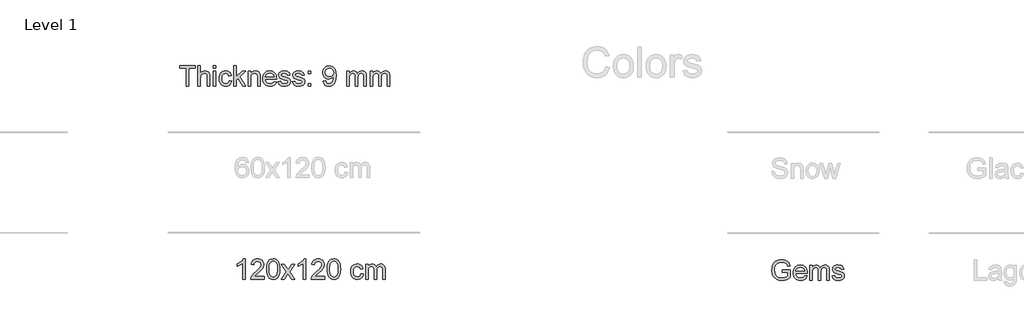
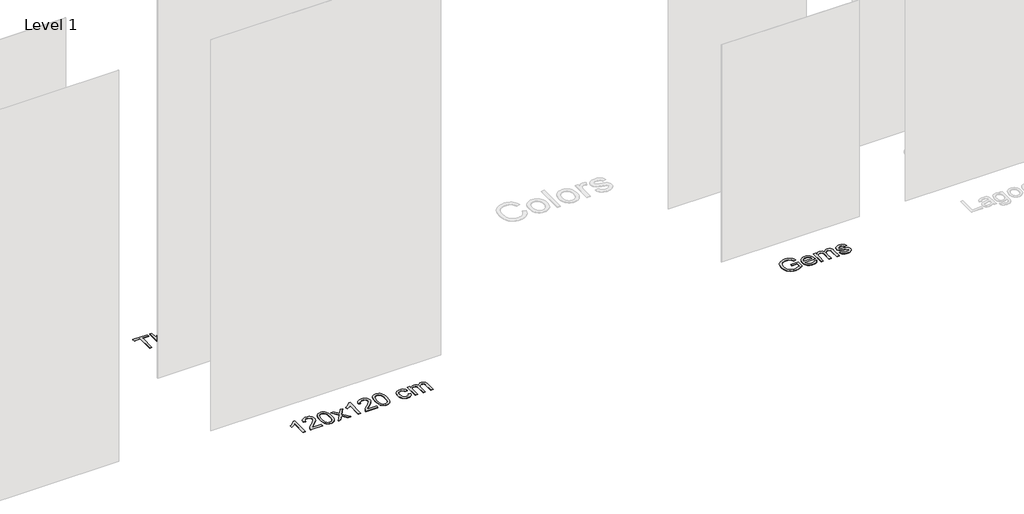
# One storey, part 3 of 7: 3 proxies.
"""IFC4 building model written with IfcOpenShell, lengths in millimetres."""

from ifc_helpers import new_model, si_unit, origin, origin_with_axes, place, context, project, spatial, polyline, outline, extrude, element, save

model = new_model("IFC4")

# Units and contexts
model_context = context("Model", 3, world=origin())
ifc_project = project(units=[si_unit("LENGTHUNIT", "METRE", prefix="MILLI")], contexts=[model_context])

# Site, building, storey
site = spatial("IfcSite", under=ifc_project)
building = spatial("IfcBuilding", under=site)
storey = spatial("IfcBuildingStorey", under=building, Name="Level 1", Elevation=0.0)

# Proxies
placement = place(None, origin())
element("IfcBuildingElementProxy", 1, Name="400mm Arial", ObjectType="400mm Arial", at=placement, inside=storey, context=model_context, shape_type="SweptSolid", body=[
    extrude(outline(polyline([(-4249.6073831, 7920.5888668), (-4249.6073831, 7970.8170219), (-4086.3658791, 7970.8170219), (-4086.3658791, 7820.623066), (-4126.0358209, 7793.0319164), (-4166.9565615, 7773.239865), (-4209.029999, 7761.3204884), (-4252.1580316, 7757.3473628), (-4281.009177, 7758.9261897), (-4308.5052905, 7763.6626704), (-4334.6463719, 7771.5568049), (-4359.4324214, 7782.6085932), (-4382.0632954, 7796.6524883), (-4401.7388508, 7813.5229435), (-4418.4590875, 7833.2199586), (-4432.2240055, 7855.7435338), (-4442.9753568, 7880.3732334), (-4450.6548934, 7906.3886218), (-4455.2626154, 7933.7896991), (-4456.7985228, 7962.5764652), (-4450.6794189, 8019.1689788), (-4443.0305391, 8045.9845106), (-4432.3221073, 8071.8128923), (-4418.744196, 8095.5198212), (-4402.4868775, 8115.9709945), (-4383.5501518, 8133.166412), (-4361.9340189, 8147.106074), (-4338.1075284, 8157.8788851), (-4312.5397297, 8165.5737501), (-4285.2306229, 8170.1906692), (-4256.1802081, 8171.7296422), (-4214.8057463, 8168.1611868), (-4177.6006139, 8157.4558208), (-4146.2693306, 8140.3860962), (-4122.5164165, 8117.7245653), (-4104.9439198, 8088.3798448), (-4092.1538891, 8051.2605515), (-4138.4579696, 8038.2130034), (-4148.7954537, 8064.6882443), (-4161.3647552, 8084.6642367), (-4177.9930213, 8099.722873), (-4200.5073995, 8111.4460459), (-4227.3505224, 8118.9876268), (-4256.965023, 8121.5014871), (-4291.6317697, 8118.7914231), (-4321.2707957, 8110.661231), (-4345.7717366, 8098.1287177), (-4365.0242277, 8082.21169), (-4379.8008212, 8063.7317511), (-4390.8740692, 8043.5105041), (-4402.6462931, 8005.5941332), (-4406.5703677, 7964.6366044), (-4401.8492154, 7916.6034785), (-4387.6857586, 7877.0806895), (-4364.5091929, 7846.3502802), (-4332.748714, 7824.6942934), (-4295.5803697, 7811.8552118), (-4256.1802081, 7807.5755179), (-4221.390834, 7810.8006167), (-4187.4598514, 7820.4759132), (-4157.9925035, 7833.8055042), (-4136.5940342, 7847.9934864), (-4136.5940342, 7920.5888668), (-4249.6073831, 7920.5888668)])), origin_with_axes(), (0.0, 0.0, 1.0), 5.0),
    extrude(outline(polyline([(-3804.421118, 7851.5251536), (-3755.1739816, 7845.2466342), (-3762.7247595, 7825.5220279), (-3772.9181565, 7808.1396036), (-3785.7541724, 7793.0993614), (-3801.2328074, 7780.4013012), (-3819.1946458, 7770.3152031), (-3839.4802721, 7763.1108474), (-3887.0228886, 7757.3473628), (-3918.188625, 7759.833632), (-3945.9575843, 7767.2924394), (-3970.3297664, 7779.7237852), (-3991.3051715, 7797.1276692), (-4008.172561, 7819.0197136), (-4020.2206964, 7844.9155404), (-4027.4495776, 7874.8151496), (-4029.8592046, 7908.7185411), (-4027.4250521, 7943.7715639), (-4020.1225945, 7974.6675201), (-4007.9518318, 8001.4064098), (-3990.9127641, 8023.9882329), (-3969.9925413, 8041.9286116), (-3946.1783135, 8054.7431677), (-3919.4700806, 8062.4319014), (-3889.8678427, 8064.9948127), (-3861.2190324, 8062.4380328), (-3835.3109428, 8054.7676932), (-3812.1435742, 8041.9837939), (-3791.7169264, 8024.0863348), (-3775.042675, 8001.5535626), (-3763.1324954, 7974.8637238), (-3755.9863876, 7944.0168185), (-3753.6043517, 7909.0128467), (-3753.8986573, 7895.4747893), (-3979.6310496, 7895.4747893), (-3976.7217161, 7875.4313519), (-3970.9367717, 7857.8772494), (-3962.2762164, 7842.8124817), (-3950.7400502, 7830.2370488), (-3936.9659352, 7820.322629), (-3921.5915334, 7813.2409006), (-3886.04187, 7807.5755179), (-3859.3091117, 7810.1997428), (-3836.7947336, 7818.0724175), (-3818.4987357, 7831.6840513), (-3804.421118, 7851.5251536)]), holes=[polyline([(-3979.6310496, 7945.7029443), (-3803.8325068, 7945.7029443), (-3810.626061, 7972.2394989), (-3823.9433892, 7991.2222099), (-3837.6408621, 8001.5229058), (-3853.226796, 8008.8805457), (-3870.7011908, 8013.2951296), (-3890.0640465, 8014.7666576), (-3923.9214527, 8010.0700308), (-3951.9172726, 7995.9801504), (-3971.3782301, 7974.0175952), (-3979.6310496, 7945.7029443)])]), origin_with_axes(), (0.0, 0.0, 1.0), 5.0),
    extrude(outline(polyline([(-3703.3761966, 7763.6258822), (-3703.3761966, 8058.7162933), (-3653.1480416, 8058.7162933), (-3653.1480416, 8010.1558699), (-3638.0403543, 8032.4617815), (-3618.616185, 8049.9361763), (-3595.5377211, 8061.2301536), (-3569.4671504, 8064.9948127), (-3541.5326442, 8061.1565772), (-3519.1408935, 8049.6418707), (-3502.4145254, 8031.2109828), (-3491.4761674, 8006.6242028), (-3473.1679068, 8032.1613446), (-3452.2844722, 8050.4021602), (-3428.8258636, 8061.3466495), (-3402.7920811, 8064.9948127), (-3382.6842644, 8063.4772994), (-3365.0351257, 8058.9247597), (-3349.844665, 8051.3371936), (-3337.1128822, 8040.714601), (-3327.048244, 8026.9343546), (-3319.8592167, 8009.873827), (-3315.5458003, 7989.5330184), (-3314.1079948, 7965.9119286), (-3314.1079948, 7763.6258822), (-3364.3361499, 7763.6258822), (-3364.3361499, 7944.3295182), (-3365.5011095, 7969.3822821), (-3368.9959885, 7986.2680657), (-3375.544288, 7997.8318231), (-3385.8695093, 8006.9185083), (-3399.1500494, 8012.8046203), (-3414.564305, 8014.7666576), (-3441.7753099, 8009.738937), (-3463.9585942, 7994.6557752), (-3472.5639672, 7983.0858864), (-3478.7106622, 7968.4871026), (-3483.6280182, 7930.2028496), (-3483.6280182, 7763.6258822), (-3533.8561733, 7763.6258822), (-3533.8561733, 7949.9213246), (-3536.762441, 7978.3218146), (-3545.4812443, 7998.5798498), (-3560.8219235, 8010.7199556), (-3583.593819, 8014.7666576), (-3602.944412, 8012.0688563), (-3620.774426, 8003.9754524), (-3635.4897058, 7990.6826496), (-3645.4960961, 7972.3866517), (-3651.2350552, 7947.0027941), (-3653.1480416, 7912.446412), (-3653.1480416, 7763.6258822), (-3703.3761966, 7763.6258822)])), origin_with_axes(), (0.0, 0.0, 1.0), 5.0),
    extrude(outline(polyline([(-3257.6013204, 7851.5251536), (-3207.3731653, 7857.803673), (-3199.4514396, 7836.3193645), (-3184.1230232, 7820.5249641), (-3161.289814, 7810.8128795), (-3130.8537103, 7807.5755179), (-3100.7854885, 7810.5430993), (-3079.6445365, 7819.4458436), (-3067.1365487, 7832.3462389), (-3062.9672194, 7847.3067734), (-3067.1610742, 7860.1090668), (-3079.7426384, 7869.8702024), (-3131.4423215, 7884.1930748), (-3207.0788597, 7908.767592), (-3226.2209862, 7921.1161643), (-3240.0901374, 7937.4623877), (-3248.5146351, 7956.7639297), (-3251.322801, 7977.9784581), (-3249.0664581, 7997.4394156), (-3242.2974294, 8015.4043197), (-3231.6288515, 8031.1619318), (-3217.6738611, 8044.0010135), (-3185.741704, 8058.8634461), (-3164.8582694, 8063.461971), (-3142.5278323, 8064.9948127), (-3109.8353856, 8062.5300033), (-3081.4103701, 8055.1355752), (-3058.5526355, 8043.5350296), (-3042.5620314, 8028.4518678), (-3031.96703, 8008.7701811), (-3025.2961031, 7983.3740607), (-3075.5242582, 7977.0955413), (-3081.8640913, 7992.9022043), (-3094.4088673, 8004.8093182), (-3113.2812136, 8012.2773227), (-3138.6037576, 8014.7666576), (-3167.4457061, 8012.3876873), (-3186.6736717, 8005.2507766), (-3197.4894023, 7994.9500808), (-3201.0946459, 7983.0797551), (-3195.1104321, 7968.4625771), (-3176.3729758, 7957.3770663), (-3133.1100532, 7946.683963), (-3059.3865013, 7923.0414134), (-3039.9132811, 7911.7351735), (-3025.1489503, 7896.2596042), (-3015.8415359, 7876.5656547), (-3012.7390644, 7852.6042741), (-3016.3810961, 7827.8335531), (-3027.3071914, 7804.5343601), (-3045.1004172, 7784.5338423), (-3069.3438407, 7769.6591469), (-3098.6272475, 7760.4253088), (-3131.5404233, 7757.3473628), (-3158.5736186, 7758.8311535), (-3182.1855113, 7763.2825257), (-3202.3761015, 7770.7014792), (-3219.1453891, 7781.0880142), (-3232.8428621, 7794.3930797), (-3243.8180083, 7810.5676248), (-3252.0708277, 7829.6116494), (-3257.6013204, 7851.5251536)])), origin_with_axes(), (0.0, 0.0, 1.0), 5.0),
])
element("IfcBuildingElementProxy", 2, Name="400mm Arial", ObjectType="400mm Arial", at=placement, inside=storey, context=model_context, shape_type="SweptSolid", body=[
    extrude(outline(polyline([(-16085.008477, 11625.1077423), (-16085.008477, 11976.7048278), (-16216.8573841, 11976.7048278), (-16216.8573841, 12026.9329829), (-15902.9314149, 12026.9329829), (-15902.9314149, 11976.7048278), (-16034.7803219, 11976.7048278), (-16034.7803219, 11625.1077423), (-16085.008477, 11625.1077423)])), origin_with_axes(), (0.0, 0.0, 1.0), 5.0),
    extrude(outline(polyline([(-15852.7032598, 11625.1077423), (-15852.7032598, 12026.9329829), (-15802.4751047, 12026.9329829), (-15802.4751047, 11879.1915736), (-15784.0258227, 11899.8788045), (-15763.307935, 11914.655398), (-15740.3214416, 11923.5213541), (-15715.0663427, 11926.4766728), (-15684.7283408, 11923.2515739), (-15658.6577701, 11913.5762775), (-15638.1299547, 11898.2110728), (-15624.420219, 11877.9162494), (-15616.6946971, 11850.0307942), (-15614.1195232, 11811.893694), (-15614.1195232, 11625.1077423), (-15664.3476783, 11625.1077423), (-15664.3476783, 11806.6942951), (-15668.3453293, 11838.135943), (-15680.3382823, 11859.6693024), (-15699.6643498, 11872.1037139), (-15725.6613441, 11876.2485177), (-15746.8881352, 11873.4526145), (-15766.8150766, 11865.064905), (-15783.3207155, 11851.8947296), (-15794.283599, 11834.7514286), (-15800.4272283, 11811.9672704), (-15802.4751047, 11781.8745232), (-15802.4751047, 11625.1077423), (-15852.7032598, 11625.1077423)])), origin_with_axes(), (0.0, 0.0, 1.0), 5.0),
    extrude(outline(polyline([(-15545.05581, 11625.1077423), (-15545.05581, 11920.1981534), (-15494.8276549, 11920.1981534), (-15494.8276549, 11625.1077423), (-15545.05581, 11625.1077423)])), origin_with_axes(), (0.0, 0.0, 1.0), 5.0),
    extrude(outline(polyline([(-15545.05581, 11976.7048278), (-15545.05581, 12026.9329829), (-15494.8276549, 12026.9329829), (-15494.8276549, 11976.7048278), (-15545.05581, 11976.7048278)])), origin_with_axes(), (0.0, 0.0, 1.0), 5.0),
    extrude(outline(polyline([(-15231.1298407, 11731.8425718), (-15180.9016857, 11725.5640525), (-15186.3647333, 11701.8632549), (-15194.9057269, 11680.8909155), (-15206.5246666, 11662.6470342), (-15221.2215523, 11647.1316111), (-15238.377116, 11634.7493163), (-15257.3720897, 11625.90482), (-15278.2064734, 11620.5981222), (-15300.880267, 11618.8292229), (-15329.0508308, 11621.297098), (-15354.3089955, 11628.7007231), (-15376.654761, 11641.0400984), (-15396.0881274, 11658.3152237), (-15411.8181484, 11680.2011368), (-15423.0538776, 11706.372875), (-15429.7953152, 11736.8304386), (-15432.042461, 11771.5738273), (-15428.2042256, 11816.2714897), (-15416.6895191, 11855.0094638), (-15397.3144007, 11886.2916961), (-15369.8949293, 11908.6221333), (-15337.0921181, 11922.0130379), (-15301.5669801, 11926.4766728), (-15279.2825282, 11924.9438311), (-15259.1256606, 11920.3453062), (-15241.0963771, 11912.6810979), (-15225.1946779, 11901.9512064), (-15211.690343, 11888.4008863), (-15200.8531525, 11872.2753921), (-15192.6831066, 11853.574724), (-15187.180205, 11832.298882), (-15237.4083601, 11826.0203626), (-15246.5195709, 11847.9338668), (-15260.7075531, 11863.642428), (-15279.187492, 11873.0969953), (-15301.1745726, 11876.2485177), (-15318.2412315, 11874.6972819), (-15333.6340273, 11870.0435747), (-15347.3529601, 11862.287396), (-15359.3980297, 11851.4287457), (-15369.2051506, 11837.216238), (-15376.2102369, 11819.3984867), (-15380.4132887, 11797.9754918), (-15381.814306, 11772.9472534), (-15376.3328642, 11725.8706208), (-15369.4810621, 11707.9333078), (-15359.888539, 11693.7299971), (-15348.0825927, 11682.9357263), (-15334.5905205, 11675.2255328), (-15319.4123225, 11670.5994167), (-15302.5479987, 11669.057378), (-15276.5387417, 11672.9078762), (-15255.2138487, 11684.4593709), (-15239.7014912, 11704.0061675), (-15231.1298407, 11731.8425718)])), origin_with_axes(), (0.0, 0.0, 1.0), 5.0),
    extrude(outline(polyline([(-15136.95205, 11625.1077423), (-15136.95205, 12026.9329829), (-15086.7238949, 12026.9329829), (-15086.7238949, 11811.0107772), (-14974.1029534, 11920.1981534), (-14904.6468328, 11920.1981534), (-15018.7393022, 11809.6373511), (-14898.3683134, 11625.1077423), (-14957.0332289, 11625.1077423), (-15054.7426868, 11774.713087), (-15086.7238949, 11743.6147957), (-15086.7238949, 11625.1077423), (-15136.95205, 11625.1077423)])), origin_with_axes(), (0.0, 0.0, 1.0), 5.0),
    extrude(outline(polyline([(-14854.4186777, 11625.1077423), (-14854.4186777, 11920.1981534), (-14804.1905226, 11920.1981534), (-14804.1905226, 11878.9953699), (-14786.7406533, 11899.7684399), (-14765.7836423, 11914.606347), (-14741.3194896, 11923.5090913), (-14713.3481953, 11926.4766728), (-14688.589737, 11924.0854398), (-14665.9159433, 11916.9117409), (-14647.0068088, 11905.8507556), (-14633.5423278, 11891.7976633), (-14624.4065916, 11874.7892524), (-14618.4836914, 11854.862311), (-14615.8349411, 11806.3018877), (-14615.8349411, 11625.1077423), (-14666.0630961, 11625.1077423), (-14666.0630961, 11799.532859), (-14667.5100987, 11825.5053278), (-14671.8511062, 11843.973004), (-14679.858671, 11857.2044931), (-14692.3053451, 11867.4684007), (-14708.259161, 11874.0534884), (-14726.7881508, 11876.2485177), (-14756.2064477, 11871.3188989), (-14781.283737, 11856.5300427), (-14791.3054557, 11844.4573819), (-14798.4638262, 11827.9578744), (-14802.7588485, 11807.0315203), (-14804.1905226, 11781.6783195), (-14804.1905226, 11625.1077423), (-14854.4186777, 11625.1077423)])), origin_with_axes(), (0.0, 0.0, 1.0), 5.0),
    extrude(outline(polyline([(-14340.1686994, 11713.0070137), (-14290.9215629, 11706.7284943), (-14298.4723409, 11687.003888), (-14308.6657378, 11669.6214637), (-14321.5017538, 11654.5812215), (-14336.9803887, 11641.8831613), (-14354.9422271, 11631.7970633), (-14375.2278535, 11624.5927075), (-14422.77047, 11618.8292229), (-14453.9362064, 11621.3154921), (-14481.7051656, 11628.7742995), (-14506.0773478, 11641.2056453), (-14527.0527529, 11658.6095293), (-14543.9201424, 11680.5015737), (-14555.9682777, 11706.3974005), (-14563.1971589, 11736.2970097), (-14565.606786, 11770.2004012), (-14563.1726335, 11805.253424), (-14555.8701759, 11836.1493802), (-14543.6994132, 11862.8882699), (-14526.6603454, 11885.470093), (-14505.7401226, 11903.4104717), (-14481.9258948, 11916.2250278), (-14455.217662, 11923.9137615), (-14425.6154241, 11926.4766728), (-14396.9666137, 11923.9198929), (-14371.0585242, 11916.2495533), (-14347.8911556, 11903.465654), (-14327.4645078, 11885.5681949), (-14310.7902564, 11863.0354227), (-14298.8800768, 11836.3455839), (-14291.733969, 11805.4986786), (-14289.3519331, 11770.4947068), (-14289.6462387, 11756.9566494), (-14515.3786309, 11756.9566494), (-14512.4692975, 11736.913212), (-14506.6843531, 11719.3591095), (-14498.0237978, 11704.2943418), (-14486.4876316, 11691.7189089), (-14472.7135165, 11681.8044891), (-14457.3391148, 11674.7227607), (-14421.7894513, 11669.057378), (-14395.056693, 11671.6816029), (-14372.5423149, 11679.5542776), (-14354.246317, 11693.1659114), (-14340.1686994, 11713.0070137)]), holes=[polyline([(-14515.3786309, 11807.1848045), (-14339.5800882, 11807.1848045), (-14346.3736423, 11833.721359), (-14359.6909706, 11852.70407), (-14373.3884435, 11863.0047659), (-14388.9743774, 11870.3624058), (-14406.4487721, 11874.7769897), (-14425.8116278, 11876.2485177), (-14459.6690341, 11871.5518909), (-14487.664854, 11857.4620105), (-14507.1258115, 11835.4994553), (-14515.3786309, 11807.1848045)])]), origin_with_axes(), (0.0, 0.0, 1.0), 5.0),
    extrude(outline(polyline([(-14257.9593362, 11713.0070137), (-14207.7311811, 11719.2855331), (-14199.8094555, 11697.8012246), (-14184.481039, 11682.0068242), (-14161.6478298, 11672.2947396), (-14131.2117261, 11669.057378), (-14101.1435044, 11672.0249594), (-14080.0025524, 11680.9277037), (-14067.4945645, 11693.828099), (-14063.3252352, 11708.7886335), (-14067.51909, 11721.5909269), (-14080.1006542, 11731.3520625), (-14131.8003373, 11745.6749349), (-14207.4368755, 11770.2494521), (-14226.579002, 11782.5980244), (-14240.4481532, 11798.9442478), (-14248.8726509, 11818.2457898), (-14251.6808168, 11839.4603182), (-14249.4244739, 11858.9212757), (-14242.6554452, 11876.8861798), (-14231.9868673, 11892.6437919), (-14218.031877, 11905.4828736), (-14186.0997198, 11920.3453062), (-14165.2162852, 11924.9438311), (-14142.8858481, 11926.4766728), (-14110.1934014, 11924.0118634), (-14081.7683859, 11916.6174353), (-14058.9106513, 11905.0168897), (-14042.9200472, 11889.9337279), (-14032.3250458, 11870.2520412), (-14025.6541189, 11844.8559208), (-14075.882274, 11838.5774014), (-14082.2221071, 11854.3840644), (-14094.7668831, 11866.2911783), (-14113.6392295, 11873.7591828), (-14138.9617735, 11876.2485177), (-14167.8037219, 11873.8695474), (-14187.0316875, 11866.7326367), (-14197.8474182, 11856.4319409), (-14201.4526617, 11844.5616152), (-14195.4684479, 11829.9444372), (-14176.7309916, 11818.8589264), (-14133.468069, 11808.1658231), (-14059.7445172, 11784.5232735), (-14040.2712969, 11773.2170336), (-14025.5069661, 11757.7414643), (-14016.1995517, 11738.0475148), (-14013.0970802, 11714.0861342), (-14016.7391119, 11689.3154132), (-14027.6652072, 11666.0162202), (-14045.458433, 11646.0157024), (-14069.7018565, 11631.141007), (-14098.9852633, 11621.9071689), (-14131.8984391, 11618.8292229), (-14158.9316344, 11620.3130136), (-14182.5435272, 11624.7643858), (-14202.7341173, 11632.1833393), (-14219.5034049, 11642.5698743), (-14233.2008779, 11655.8749398), (-14244.1760241, 11672.0494849), (-14252.4288435, 11691.0935095), (-14257.9593362, 11713.0070137)])), origin_with_axes(), (0.0, 0.0, 1.0), 5.0),
    extrude(outline(polyline([(-13975.4259639, 11713.0070137), (-13925.1978088, 11719.2855331), (-13917.2760832, 11697.8012246), (-13901.9476667, 11682.0068242), (-13879.1144575, 11672.2947396), (-13848.6783538, 11669.057378), (-13818.6101321, 11672.0249594), (-13797.4691801, 11680.9277037), (-13784.9611922, 11693.828099), (-13780.791863, 11708.7886335), (-13784.9857177, 11721.5909269), (-13797.5672819, 11731.3520625), (-13849.266965, 11745.6749349), (-13924.9035032, 11770.2494521), (-13944.0456297, 11782.5980244), (-13957.9147809, 11798.9442478), (-13966.3392786, 11818.2457898), (-13969.1474445, 11839.4603182), (-13966.8911016, 11858.9212757), (-13960.1220729, 11876.8861798), (-13949.453495, 11892.6437919), (-13935.4985047, 11905.4828736), (-13903.5663475, 11920.3453062), (-13882.6829129, 11924.9438311), (-13860.3524758, 11926.4766728), (-13827.6600291, 11924.0118634), (-13799.2350136, 11916.6174353), (-13776.377279, 11905.0168897), (-13760.386675, 11889.9337279), (-13749.7916735, 11870.2520412), (-13743.1207466, 11844.8559208), (-13793.3489017, 11838.5774014), (-13799.6887348, 11854.3840644), (-13812.2335108, 11866.2911783), (-13831.1058572, 11873.7591828), (-13856.4284012, 11876.2485177), (-13885.2703496, 11873.8695474), (-13904.4983152, 11866.7326367), (-13915.3140459, 11856.4319409), (-13918.9192894, 11844.5616152), (-13912.9350756, 11829.9444372), (-13894.1976193, 11818.8589264), (-13850.9346967, 11808.1658231), (-13777.2111449, 11784.5232735), (-13757.7379246, 11773.2170336), (-13742.9735938, 11757.7414643), (-13733.6661794, 11738.0475148), (-13730.5637079, 11714.0861342), (-13734.2057396, 11689.3154132), (-13745.1318349, 11666.0162202), (-13762.9250607, 11646.0157024), (-13787.1684842, 11631.141007), (-13816.451891, 11621.9071689), (-13849.3650669, 11618.8292229), (-13876.3982621, 11620.3130136), (-13900.0101549, 11624.7643858), (-13920.200745, 11632.1833393), (-13936.9700326, 11642.5698743), (-13950.6675056, 11655.8749398), (-13961.6426518, 11672.0494849), (-13969.8954712, 11691.0935095), (-13975.4259639, 11713.0070137)])), origin_with_axes(), (0.0, 0.0, 1.0), 5.0),
    extrude(outline(polyline([(-13661.4999946, 11869.9699983), (-13661.4999946, 11920.1981534), (-13611.2718396, 11920.1981534), (-13611.2718396, 11869.9699983), (-13661.4999946, 11869.9699983)])), origin_with_axes(), (0.0, 0.0, 1.0), 5.0),
    extrude(outline(polyline([(-13661.4999946, 11625.1077423), (-13661.4999946, 11675.3358974), (-13611.2718396, 11675.3358974), (-13611.2718396, 11625.1077423), (-13661.4999946, 11625.1077423)])), origin_with_axes(), (0.0, 0.0, 1.0), 5.0),
    extrude(outline(polyline([(-13366.4095836, 11725.5640525), (-13316.1814285, 11731.8425718), (-13307.5975153, 11703.3317172), (-13293.6179995, 11683.9198106), (-13274.5862376, 11672.7729861), (-13250.8455862, 11669.057378), (-13229.5452186, 11671.448611), (-13210.182363, 11678.6223099), (-13194.093657, 11689.7936598), (-13182.6157388, 11704.1778458), (-13166.1836763, 11747.8331759), (-13160.7390228, 11776.2336659), (-13158.9241383, 11806.1056839), (-13159.2184439, 11815.9158705), (-13176.6192623, 11794.6768166), (-13199.3911578, 11777.8523467), (-13225.8909242, 11766.8894632), (-13254.4753552, 11763.2351688), (-13278.3355683, 11765.4669862), (-13300.2766636, 11772.1624385), (-13320.2986412, 11783.3215257), (-13338.401501, 11798.9442478), (-13353.4018894, 11818.2151329), (-13364.1164525, 11840.3187095), (-13370.5451903, 11865.2549774), (-13372.688103, 11893.0239367), (-13370.4409571, 11921.7187323), (-13363.6995196, 11947.4704719), (-13352.4637903, 11970.2791556), (-13336.7337693, 11990.1447834), (-13317.619234, 12006.2396207), (-13296.2299616, 12017.735933), (-13272.5659523, 12024.6337204), (-13246.627206, 12026.9329829), (-13209.1645561, 12021.6845331), (-13175.0618952, 12005.9391837), (-13146.5387778, 11980.4817496), (-13125.8147587, 11946.0970458), (-13113.1964063, 11898.5666921), (-13108.9902888, 11833.6723081), (-13113.1841436, 11764.8661123), (-13125.7657078, 11711.6826385), (-13146.6246169, 11671.7183911), (-13160.1166891, 11655.7921664), (-13175.6505064, 11642.5698743), (-13192.913369, 11632.1833393), (-13211.5925773, 11624.7643858), (-13253.2000309, 11618.8292229), (-13275.7573286, 11620.5797281), (-13296.1441225, 11625.8312436), (-13314.3604126, 11634.5837694), (-13330.406199, 11646.8373055), (-13343.8768114, 11662.2607581), (-13354.3675796, 11680.5230335), (-13361.8785037, 11701.6241316), (-13366.4095836, 11725.5640525)]), holes=[polyline([(-13159.2184439, 11894.201159), (-13164.638572, 11928.2425063), (-13171.413732, 11942.320124), (-13180.8989562, 11954.4357044), (-13192.6282604, 11964.1784459), (-13206.135661, 11971.137547), (-13238.4847511, 11976.7048278), (-13256.094036, 11975.2057087), (-13272.0355891, 11970.7083513), (-13286.3094105, 11963.2127557), (-13298.9155002, 11952.7189217), (-13309.2161961, 11939.8399862), (-13316.573836, 11925.1890858), (-13320.9884199, 11908.7662204), (-13322.4599479, 11890.57139), (-13316.892667, 11859.5344124), (-13309.933566, 11846.4163536), (-13300.1908245, 11834.8985814), (-13288.0691127, 11825.5206562), (-13273.9731009, 11818.8221382), (-13239.8581772, 11813.4633238), (-13207.7666045, 11818.8221382), (-13181.9290257, 11834.8985814), (-13171.9931462, 11846.6432141), (-13164.8960894, 11860.4418546), (-13159.2184439, 11894.201159)])]), origin_with_axes(), (0.0, 0.0, 1.0), 5.0),
    extrude(outline(polyline([(-12895.5206298, 11625.1077423), (-12895.5206298, 11920.1981534), (-12845.2924747, 11920.1981534), (-12845.2924747, 11871.63773), (-12830.1847874, 11893.9436416), (-12810.7606181, 11911.4180364), (-12787.6821542, 11922.7120137), (-12761.6115835, 11926.4766728), (-12733.6770773, 11922.6384373), (-12711.2853266, 11911.1237308), (-12694.5589585, 11892.6928429), (-12683.6206005, 11868.1060629), (-12665.3123399, 11893.6432047), (-12644.4289053, 11911.8840203), (-12620.9702968, 11922.8285096), (-12594.9365142, 11926.4766728), (-12574.8286975, 11924.9591595), (-12557.1795588, 11920.4066198), (-12541.9890981, 11912.8190537), (-12529.2573154, 11902.1964611), (-12519.1926771, 11888.4162147), (-12512.0036498, 11871.3556871), (-12507.6902334, 11851.0148785), (-12506.2524279, 11827.3937887), (-12506.2524279, 11625.1077423), (-12556.480583, 11625.1077423), (-12556.480583, 11805.8113783), (-12557.6455427, 11830.8641422), (-12561.1404216, 11847.7499258), (-12567.6887211, 11859.3136832), (-12578.0139425, 11868.4003684), (-12591.2944825, 11874.2864804), (-12606.7087381, 11876.2485177), (-12633.919743, 11871.2207971), (-12656.1030273, 11856.1376353), (-12664.7084003, 11844.5677465), (-12670.8550953, 11829.9689627), (-12675.7724513, 11791.6847097), (-12675.7724513, 11625.1077423), (-12726.0006064, 11625.1077423), (-12726.0006064, 11811.4031847), (-12728.9068741, 11839.8036747), (-12737.6256774, 11860.0617099), (-12752.9663566, 11872.2018157), (-12775.7382521, 11876.2485177), (-12795.0888451, 11873.5507164), (-12812.9188591, 11865.4573125), (-12827.6341389, 11852.1645097), (-12837.6405292, 11833.8685118), (-12843.3794883, 11808.4846542), (-12845.2924747, 11773.9282721), (-12845.2924747, 11625.1077423), (-12895.5206298, 11625.1077423)])), origin_with_axes(), (0.0, 0.0, 1.0), 5.0),
    extrude(outline(polyline([(-12430.9101953, 11625.1077423), (-12430.9101953, 11920.1981534), (-12380.6820402, 11920.1981534), (-12380.6820402, 11871.63773), (-12365.574353, 11893.9436416), (-12346.1501836, 11911.4180364), (-12323.0717198, 11922.7120137), (-12297.0011491, 11926.4766728), (-12269.0666429, 11922.6384373), (-12246.6748921, 11911.1237308), (-12229.9485241, 11892.6928429), (-12219.0101661, 11868.1060629), (-12200.7019055, 11893.6432047), (-12179.8184709, 11911.8840203), (-12156.3598623, 11922.8285096), (-12130.3260798, 11926.4766728), (-12110.2182631, 11924.9591595), (-12092.5691244, 11920.4066198), (-12077.3786636, 11912.8190537), (-12064.6468809, 11902.1964611), (-12054.5822427, 11888.4162147), (-12047.3932153, 11871.3556871), (-12043.079799, 11851.0148785), (-12041.6419935, 11827.3937887), (-12041.6419935, 11625.1077423), (-12091.8701486, 11625.1077423), (-12091.8701486, 11805.8113783), (-12093.0351082, 11830.8641422), (-12096.5299872, 11847.7499258), (-12103.0782867, 11859.3136832), (-12113.403508, 11868.4003684), (-12126.684048, 11874.2864804), (-12142.0983036, 11876.2485177), (-12169.3093085, 11871.2207971), (-12191.4925929, 11856.1376353), (-12200.0979659, 11844.5677465), (-12206.2446609, 11829.9689627), (-12211.1620169, 11791.6847097), (-12211.1620169, 11625.1077423), (-12261.3901719, 11625.1077423), (-12261.3901719, 11811.4031847), (-12264.2964397, 11839.8036747), (-12273.015243, 11860.0617099), (-12288.3559222, 11872.2018157), (-12311.1278177, 11876.2485177), (-12330.4784106, 11873.5507164), (-12348.3084247, 11865.4573125), (-12363.0237045, 11852.1645097), (-12373.0300947, 11833.8685118), (-12378.7690539, 11808.4846542), (-12380.6820402, 11773.9282721), (-12380.6820402, 11625.1077423), (-12430.9101953, 11625.1077423)])), origin_with_axes(), (0.0, 0.0, 1.0), 5.0),
])
element("IfcBuildingElementProxy", 3, Name="400mm Arial", ObjectType="400mm Arial", at=placement, inside=storey, context=model_context, shape_type="SweptSolid", body=[
    extrude(outline(polyline([(-14915.9447638, 7785.1077423), (-14966.1729189, 7785.1077423), (-14966.1729189, 8098.2488966), (-14987.1421926, 8081.2895366), (-15013.7523236, 8064.3547021), (-15066.629229, 8038.9953699), (-15066.629229, 8086.4766728), (-15027.1800164, 8107.9364558), (-14993.003779, 8133.4674663), (-14966.0625543, 8160.6171575), (-14948.3183794, 8186.9329829), (-14915.9447638, 8186.9329829), (-14915.9447638, 7785.1077423)])), origin_with_axes(), (0.0, 0.0, 1.0), 5.0),
    extrude(outline(polyline([(-14539.2336007, 7835.3358974), (-14539.2336007, 7785.1077423), (-14802.9314149, 7785.1077423), (-14801.8277689, 7802.7906035), (-14797.5358123, 7819.7377008), (-14785.138189, 7846.8015529), (-14766.9770812, 7873.0560646), (-14740.7225695, 7900.5368497), (-14704.0447346, 7931.2795217), (-14649.8557167, 7979.4230122), (-14617.3717365, 8014.9604129), (-14601.1481405, 8043.8023613), (-14595.7402752, 8071.8594948), (-14600.8538349, 8097.0103605), (-14616.1945141, 8117.9183206), (-14639.77575, 8132.008201), (-14669.6109798, 8136.7048278), (-14700.9422631, 8132.1185656), (-14725.2837884, 8118.359779), (-14740.9923496, 8096.5075885), (-14746.4247404, 8067.6411146), (-14796.6528955, 8073.919634), (-14792.3333477, 8099.8491833), (-14784.4760014, 8122.5045828), (-14773.0808566, 8141.8858326), (-14758.1479133, 8157.9929326), (-14740.020528, 8170.6542046), (-14719.0420572, 8179.6979703), (-14695.212501, 8185.1242298), (-14668.5318593, 8186.9329829), (-14641.6120943, 8184.9218947), (-14617.6537794, 8178.8886299), (-14596.6569145, 8168.8331887), (-14578.6214997, 8154.7555711), (-14564.1361461, 8137.6981092), (-14553.789465, 8118.7031355), (-14547.5814563, 8097.77065), (-14545.5121201, 8074.9006526), (-14547.7439375, 8050.8779584), (-14554.4393899, 8027.272197), (-14566.3219783, 8003.2617654), (-14584.1152041, 7978.0250606), (-14612.478906, 7947.8955252), (-14656.0729224, 7909.206602), (-14713.8549211, 7860.8914333), (-14736.516452, 7835.3358974), (-14539.2336007, 7835.3358974)])), origin_with_axes(), (0.0, 0.0, 1.0), 5.0),
    extrude(outline(polyline([(-14489.0054456, 7982.783001), (-14485.314363, 8047.1010365), (-14474.2411149, 8098.3960494), (-14455.8960661, 8137.4528546), (-14444.0380031, 8152.6862348), (-14430.3895811, 8165.0562669), (-14414.9048148, 8174.6273302), (-14397.5377189, 8181.4638039), (-14357.1565386, 8186.9329829), (-14326.2054, 8183.6956213), (-14298.4916231, 8173.9835367), (-14275.3150574, 8158.1768736), (-14257.9755527, 8136.6557769), (-14244.8789536, 8109.6041875), (-14234.431105, 8077.2060465), (-14227.5884999, 8036.0645767), (-14225.3076315, 7982.783001), (-14228.961926, 7918.8328476), (-14239.9248094, 7867.660462), (-14258.1594937, 7828.5668687), (-14269.9899655, 7813.2875031), (-14283.6291905, 7800.8530917), (-14299.1323509, 7791.2176491), (-14316.554629, 7784.3351901), (-14357.1565386, 7778.8292229), (-14384.8212646, 7781.2204559), (-14409.346731, 7788.3941548), (-14430.7329376, 7800.3503196), (-14448.9798846, 7817.0889504), (-14466.4910675, 7847.3472445), (-14478.9990554, 7885.0490177), (-14486.5038481, 7930.1942698), (-14489.0054456, 7982.783001)]), holes=[polyline([(-14438.7772906, 7982.8811029), (-14437.3057626, 7939.2165758), (-14432.8911786, 7903.8723131), (-14425.5335387, 7876.8483149), (-14415.2328429, 7858.1445811), (-14402.773906, 7845.4189297), (-14388.941543, 7836.3291788), (-14373.7357538, 7830.8753282), (-14357.1565386, 7829.057378), (-14340.5773233, 7830.8814596), (-14325.3715342, 7836.3537042), (-14311.5391712, 7845.474112), (-14299.0802343, 7858.2426829), (-14288.7795384, 7876.9770736), (-14281.4218985, 7903.9949404), (-14277.0073146, 7939.2962835), (-14275.5357866, 7982.8811029), (-14276.9582636, 8025.3898675), (-14281.2256948, 8060.1117964), (-14288.33808, 8087.0468898), (-14298.2954193, 8106.1951477), (-14310.5458898, 8119.5431328), (-14324.5376683, 8129.0774078), (-14340.270755, 8134.7979728), (-14357.7451498, 8136.7048278), (-14374.2385259, 8135.0248334), (-14389.1867976, 8129.9848501), (-14402.589965, 8121.5848778), (-14414.448028, 8109.8249167), (-14425.0920803, 8088.9782703), (-14432.6949749, 8060.8720859), (-14437.2567117, 8025.5063634), (-14438.7772906, 7982.8811029)])]), origin_with_axes(), (0.0, 0.0, 1.0), 5.0),
    extrude(outline(polyline([(-14200.193554, 7785.1077423), (-14092.8701132, 7933.5358646), (-14193.9150346, 8080.1981534), (-14133.6804892, 8080.1981534), (-14084.9238621, 8009.4667084), (-14062.0661275, 7976.2101761), (-14042.2495507, 8003.4824946), (-13986.7238949, 8080.1981534), (-13926.2931458, 8080.1981534), (-14032.4393642, 7933.4377628), (-13930.2172204, 7785.1077423), (-13990.5498676, 7785.1077423), (-14052.1578391, 7874.3804398), (-14063.3414518, 7890.7634513), (-14139.7628049, 7785.1077423), (-14200.193554, 7785.1077423)])), origin_with_axes(), (0.0, 0.0, 1.0), 5.0),
    extrude(outline(polyline([(-13710.469042, 7785.1077423), (-13760.6971971, 7785.1077423), (-13760.6971971, 8098.2488966), (-13781.6664708, 8081.2895366), (-13808.2766018, 8064.3547021), (-13861.1535072, 8038.9953699), (-13861.1535072, 8086.4766728), (-13821.7042946, 8107.9364558), (-13787.5280572, 8133.4674663), (-13760.5868325, 8160.6171575), (-13742.8426576, 8186.9329829), (-13710.469042, 8186.9329829), (-13710.469042, 7785.1077423)])), origin_with_axes(), (0.0, 0.0, 1.0), 5.0),
    extrude(outline(polyline([(-13333.7578789, 7835.3358974), (-13333.7578789, 7785.1077423), (-13597.4556931, 7785.1077423), (-13596.3520471, 7802.7906035), (-13592.0600905, 7819.7377008), (-13579.6624672, 7846.8015529), (-13561.5013594, 7873.0560646), (-13535.2468477, 7900.5368497), (-13498.5690128, 7931.2795217), (-13444.3799949, 7979.4230122), (-13411.8960147, 8014.9604129), (-13395.6724187, 8043.8023613), (-13390.2645534, 8071.8594948), (-13395.3781131, 8097.0103605), (-13410.7187923, 8117.9183206), (-13434.3000282, 8132.008201), (-13464.135258, 8136.7048278), (-13495.4665413, 8132.1185656), (-13519.8080666, 8118.359779), (-13535.5166278, 8096.5075885), (-13540.9490186, 8067.6411146), (-13591.1771737, 8073.919634), (-13586.8576259, 8099.8491833), (-13579.0002796, 8122.5045828), (-13567.6051348, 8141.8858326), (-13552.6721915, 8157.9929326), (-13534.5448062, 8170.6542046), (-13513.5663354, 8179.6979703), (-13489.7367792, 8185.1242298), (-13463.0561375, 8186.9329829), (-13436.1363725, 8184.9218947), (-13412.1780576, 8178.8886299), (-13391.1811927, 8168.8331887), (-13373.1457779, 8154.7555711), (-13358.6604243, 8137.6981092), (-13348.3137432, 8118.7031355), (-13342.1057345, 8097.77065), (-13340.0363983, 8074.9006526), (-13342.2682157, 8050.8779584), (-13348.9636681, 8027.272197), (-13360.8462565, 8003.2617654), (-13378.6394823, 7978.0250606), (-13407.0031842, 7947.8955252), (-13450.5972006, 7909.206602), (-13508.3791993, 7860.8914333), (-13531.0407302, 7835.3358974), (-13333.7578789, 7835.3358974)])), origin_with_axes(), (0.0, 0.0, 1.0), 5.0),
    extrude(outline(polyline([(-13283.5297238, 7982.783001), (-13279.8386412, 8047.1010365), (-13268.7653931, 8098.3960494), (-13250.4203443, 8137.4528546), (-13238.5622813, 8152.6862348), (-13224.9138593, 8165.0562669), (-13209.429093, 8174.6273302), (-13192.0619971, 8181.4638039), (-13151.6808168, 8186.9329829), (-13120.7296783, 8183.6956213), (-13093.0159013, 8173.9835367), (-13069.8393356, 8158.1768736), (-13052.4998309, 8136.6557769), (-13039.4032319, 8109.6041875), (-13028.9553832, 8077.2060465), (-13022.1127781, 8036.0645767), (-13019.8319097, 7982.783001), (-13023.4862042, 7918.8328476), (-13034.4490876, 7867.660462), (-13052.6837719, 7828.5668687), (-13064.5142437, 7813.2875031), (-13078.1534687, 7800.8530917), (-13093.6566291, 7791.2176491), (-13111.0789072, 7784.3351901), (-13151.6808168, 7778.8292229), (-13179.3455428, 7781.2204559), (-13203.8710092, 7788.3941548), (-13225.2572158, 7800.3503196), (-13243.5041628, 7817.0889504), (-13261.0153457, 7847.3472445), (-13273.5233336, 7885.0490177), (-13281.0281263, 7930.1942698), (-13283.5297238, 7982.783001)]), holes=[polyline([(-13233.3015688, 7982.8811029), (-13231.8300408, 7939.2165758), (-13227.4154569, 7903.8723131), (-13220.0578169, 7876.8483149), (-13209.7571211, 7858.1445811), (-13197.2981842, 7845.4189297), (-13183.4658212, 7836.3291788), (-13168.260032, 7830.8753282), (-13151.6808168, 7829.057378), (-13135.1016015, 7830.8814596), (-13119.8958124, 7836.3537042), (-13106.0634494, 7845.474112), (-13093.6045125, 7858.2426829), (-13083.3038166, 7876.9770736), (-13075.9461767, 7903.9949404), (-13071.5315928, 7939.2962835), (-13070.0600648, 7982.8811029), (-13071.4825418, 8025.3898675), (-13075.749973, 8060.1117964), (-13082.8623582, 8087.0468898), (-13092.8196975, 8106.1951477), (-13105.070168, 8119.5431328), (-13119.0619465, 8129.0774078), (-13134.7950332, 8134.7979728), (-13152.269428, 8136.7048278), (-13168.7628041, 8135.0248334), (-13183.7110758, 8129.9848501), (-13197.1142432, 8121.5848778), (-13208.9723062, 8109.8249167), (-13219.6163586, 8088.9782703), (-13227.2192531, 8060.8720859), (-13231.7809899, 8025.5063634), (-13233.3015688, 7982.8811029)])]), origin_with_axes(), (0.0, 0.0, 1.0), 5.0),
    extrude(outline(polyline([(-12618.0066691, 7891.8425718), (-12567.778514, 7885.5640525), (-12573.2415617, 7861.8632549), (-12581.7825553, 7840.8909155), (-12593.401495, 7822.6470342), (-12608.0983807, 7807.1316111), (-12625.2539444, 7794.7493163), (-12644.2489181, 7785.90482), (-12665.0833018, 7780.5981222), (-12687.7570954, 7778.8292229), (-12715.9276592, 7781.297098), (-12741.1858238, 7788.7007231), (-12763.5315894, 7801.0400984), (-12782.9649557, 7818.3152237), (-12798.6949767, 7840.2011368), (-12809.930706, 7866.372875), (-12816.6721436, 7896.8304386), (-12818.9192894, 7931.5738273), (-12815.0810539, 7976.2714897), (-12803.5663475, 8015.0094638), (-12784.1912291, 8046.2916961), (-12756.7717577, 8068.6221333), (-12723.9689465, 8082.0130379), (-12688.4438085, 8086.4766728), (-12666.1593566, 8084.9438311), (-12646.0024889, 8080.3453062), (-12627.9732055, 8072.6810979), (-12612.0715063, 8061.9512064), (-12598.5671713, 8048.4008863), (-12587.7299809, 8032.2753921), (-12579.5599349, 8013.574724), (-12574.0570334, 7992.298882), (-12624.2851885, 7986.0203626), (-12633.3963992, 8007.9338668), (-12647.5843815, 8023.642428), (-12666.0643204, 8033.0969953), (-12688.051401, 8036.2485177), (-12705.1180599, 8034.6972819), (-12720.5108557, 8030.0435747), (-12734.2297884, 8022.287396), (-12746.2748581, 8011.4287457), (-12756.0819789, 7997.216238), (-12763.0870653, 7979.3984867), (-12767.2901171, 7957.9754918), (-12768.6911343, 7932.9472534), (-12763.2096926, 7885.8706208), (-12756.3578904, 7867.9333078), (-12746.7653674, 7853.7299971), (-12734.9594211, 7842.9357263), (-12721.4673489, 7835.2255328), (-12706.2891509, 7830.5994167), (-12689.4248271, 7829.057378), (-12663.41557, 7832.9078762), (-12642.0906771, 7844.4593709), (-12626.5783196, 7864.0061675), (-12618.0066691, 7891.8425718)])), origin_with_axes(), (0.0, 0.0, 1.0), 5.0),
    extrude(outline(polyline([(-12523.8288783, 7785.1077423), (-12523.8288783, 8080.1981534), (-12473.6007233, 8080.1981534), (-12473.6007233, 8031.63773), (-12458.493036, 8053.9436416), (-12439.0688667, 8071.4180364), (-12415.9904028, 8082.7120137), (-12389.9198321, 8086.4766728), (-12361.9853259, 8082.6384373), (-12339.5935752, 8071.1237308), (-12322.8672071, 8052.6928429), (-12311.9288491, 8028.1060629), (-12293.6205885, 8053.6432047), (-12272.7371539, 8071.8840203), (-12249.2785453, 8082.8285096), (-12223.2447628, 8086.4766728), (-12203.1369461, 8084.9591595), (-12185.4878074, 8080.4066198), (-12170.2973467, 8072.8190537), (-12157.5655639, 8062.1964611), (-12147.5009257, 8048.4162147), (-12140.3118984, 8031.3556871), (-12135.998482, 8011.0148785), (-12134.5606765, 7987.3937887), (-12134.5606765, 7785.1077423), (-12184.7888316, 7785.1077423), (-12184.7888316, 7965.8113783), (-12185.9537912, 7990.8641422), (-12189.4486702, 8007.7499258), (-12195.9969697, 8019.3136832), (-12206.322191, 8028.4003684), (-12219.6027311, 8034.2864804), (-12235.0169867, 8036.2485177), (-12262.2279916, 8031.2207971), (-12284.4112759, 8016.1376353), (-12293.0166489, 8004.5677465), (-12299.1633439, 7989.9689627), (-12304.0806999, 7951.6847097), (-12304.0806999, 7785.1077423), (-12354.308855, 7785.1077423), (-12354.308855, 7971.4031847), (-12357.2151227, 7999.8036747), (-12365.933926, 8020.0617099), (-12381.2746052, 8032.2018157), (-12404.0465007, 8036.2485177), (-12423.3970937, 8033.5507164), (-12441.2271077, 8025.4573125), (-12455.9423875, 8012.1645097), (-12465.9487778, 7993.8685118), (-12471.6877369, 7968.4846542), (-12473.6007233, 7933.9282721), (-12473.6007233, 7785.1077423), (-12523.8288783, 7785.1077423)])), origin_with_axes(), (0.0, 0.0, 1.0), 5.0),
])

save(model, "model.ifc")
